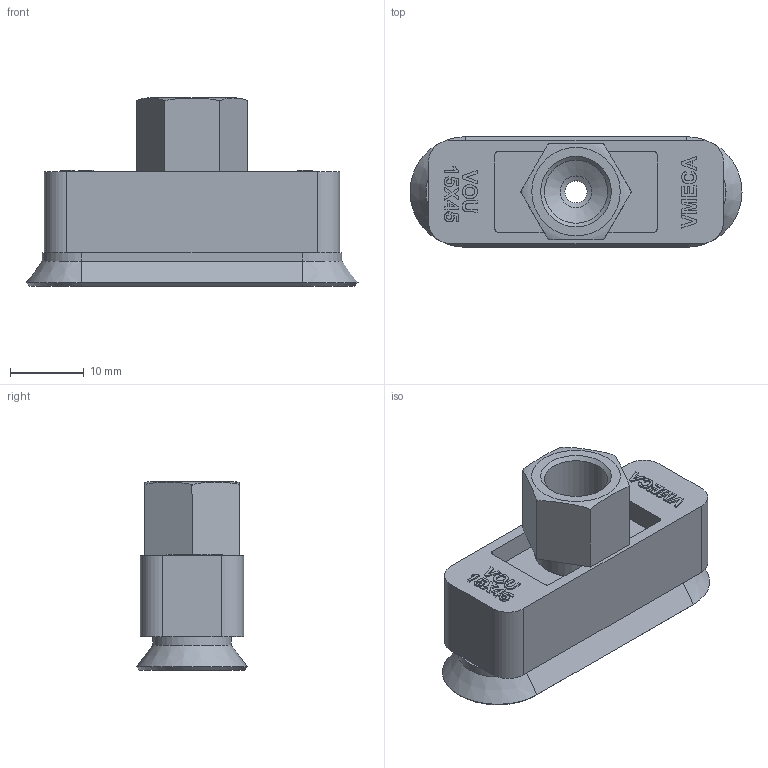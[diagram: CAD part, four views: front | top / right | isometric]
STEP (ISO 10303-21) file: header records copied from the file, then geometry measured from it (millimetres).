
FILE_DESCRIPTION( ( 'Unknown' ), '1' );
FILE_NAME( 'D:/New PAD/PAD-VOU/Part/STEP/VOU 15X45_18F.stp', 'Unknown', ( 'Unknown' ), ( 'Unknown' ), 'XStep 1.0', 'Unknown', ' ' );
FILE_SCHEMA( ( 'automotive_design' ) );
Length unit declared in the file: millimetre
Products named in the file (1): 15X45_STP
Bounding box: 45 x 15 x 25.5 mm (x, y, z)
Volume: 8499.7 mm3; surface area: 4214.7 mm2
Topology: 1 solids, 1 shells, 187 faces, 487 edges, 318 vertices
Faces by surface type: extrusion 111, plane 48, cylinder 18, cone 9, revolution 1
Full cylindrical faces by diameter (mm): 3 x1, 4.3 x1, 5 x1, 6.5 x1, 8.566 x2
Entity records: 7901 total; most frequent: CARTESIAN_POINT 2096, ORIENTED_EDGE 936, DIRECTION 648, EDGE_CURVE 468, VECTOR 401, VERTEX_POINT 313, LINE 290, B_SPLINE_CURVE_WITH_KNOTS 242
